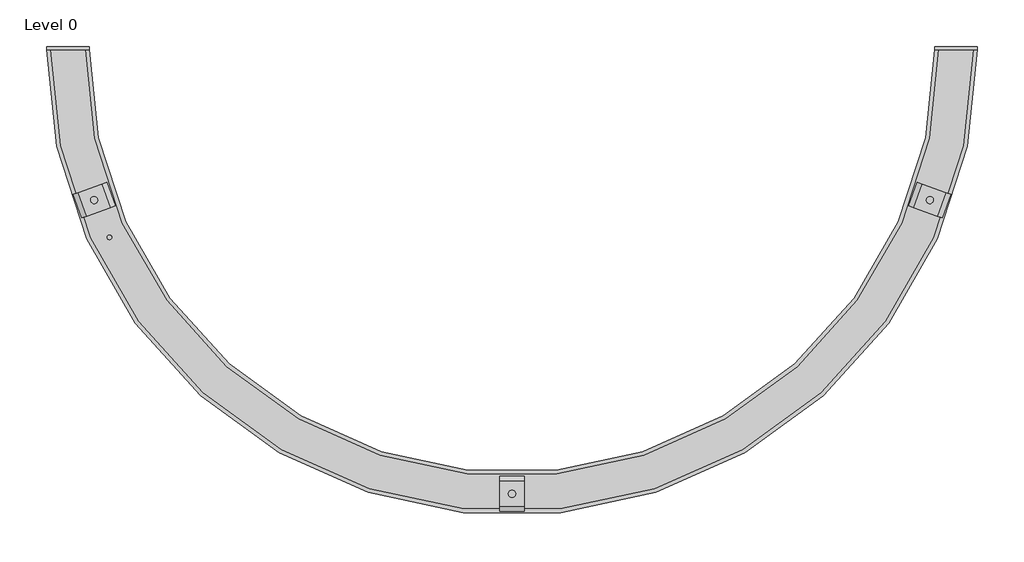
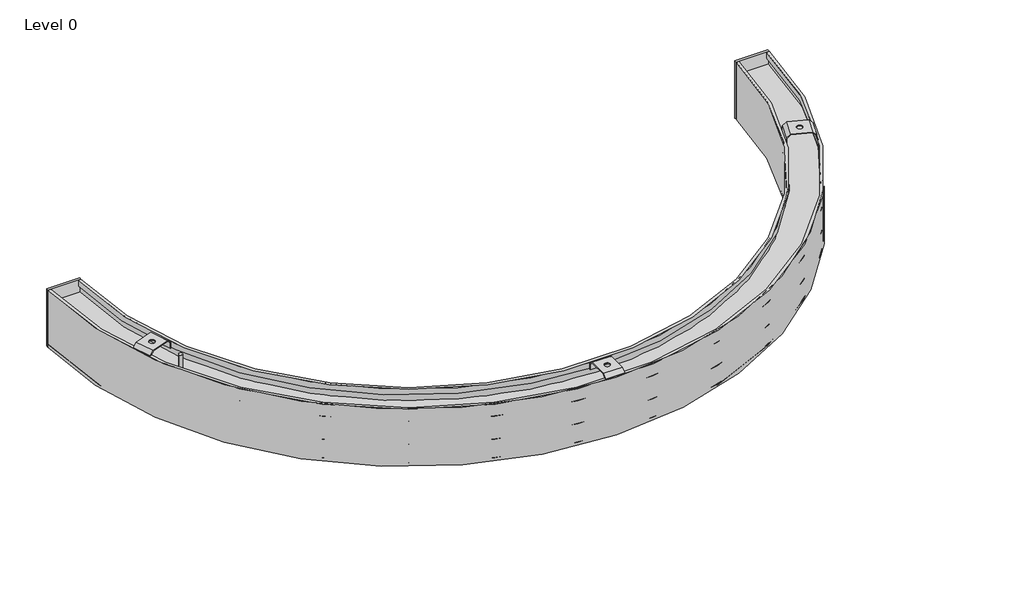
# One storey: 1 light fixture.
"""IFC4 building model written with IfcOpenShell, lengths in millimetres."""

from ifc_helpers import new_model, si_unit, origin, place, context, project, spatial, transform, mapped, element, save
from components import silver_anodized_4000_k_2560_lm_beeaa282

model = new_model("IFC4")

# Units and contexts
model_context = context("Model", 3, world=origin())
ifc_project = project(units=[si_unit("LENGTHUNIT", "METRE", prefix="MILLI")], contexts=[model_context])

# Site, building, storey
site = spatial("IfcSite", under=ifc_project)
building = spatial("IfcBuilding", under=site)
storey = spatial("IfcBuildingStorey", under=building, Name="Level 0", Elevation=0.0)

# Light fixture
placement = place(None, origin())
silver_anodized_4000_k_2560_lm_shape = silver_anodized_4000_k_2560_lm_beeaa282(model_context)
element("IfcLightFixture", 1, ObjectType="KLUŚ - SERPENT - R NT 1_2 r 500 : Silver Anodized - 4000 K - 2560 lm", at=placement, inside=storey, context=model_context, shape_type="MappedRepresentation", body=[
    mapped(silver_anodized_4000_k_2560_lm_shape, transform((0.0, 0.0, 93.0), x_axis=(1.0, 0.0, 0.0), y_axis=(0.0, -1.0, 0.0), z_axis=(0.0, 0.0, -1.0))),
])

save(model, "model.ifc")
